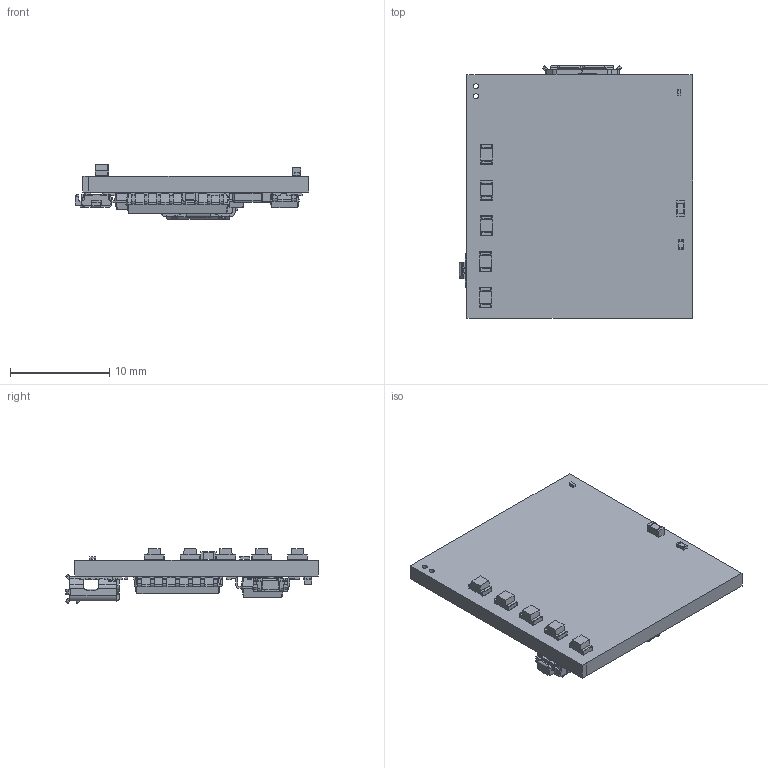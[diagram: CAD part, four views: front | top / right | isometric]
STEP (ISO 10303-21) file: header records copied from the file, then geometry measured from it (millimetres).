
FILE_DESCRIPTION(('KiCad electronic assembly'),'2;1');
FILE_NAME('Mark Small.step','2021-03-18T18:11:36',('An Author'),( 'A Company'),'Open CASCADE STEP processor 6.9', 'KiCad to STEP converter','Unknown');
FILE_SCHEMA(('AUTOMOTIVE_DESIGN { 1 0 10303 214 1 1 1 1 }'));
Length unit declared in the file: millimetre
Products named in the file (30): Open CASCADE STEP translator 6.9 1; R_0402_1005Metric; SOLID; C_0201_0603Metric; User_Library-EVQP7-LC-01P; USB_Micro-B_Molex_47346-0001; SOT-23-5; L_Wuerth_MAPI-3010; SOT-23-6; SOIC-14_3.9x8.7mm_P1.27mm; SOP-16_4.4x10.4mm_P1.27mm; LED_0805_2012Metric; D_1206_3216Metric; D_SOD-523; C_0603_1608Metric; C_1206_3216Metric; COMPOUND
Assembly tree (64 placements, depth 3):
  Open CASCADE STEP translator 6.9 1
    R_0402_1005Metric  x17
      SOLID
    C_0201_0603Metric  x12
      SOLID
    User_Library-EVQP7-LC-01P
      SOLID
    USB_Micro-B_Molex_47346-0001
      SOLID
    SOT-23-5
      SOLID
    L_Wuerth_MAPI-3010
      SOLID
    SOT-23-6
      SOLID
    SOIC-14_3.9x8.7mm_P1.27mm
      SOLID
    SOP-16_4.4x10.4mm_P1.27mm
      SOLID
    LED_0805_2012Metric  x5
      SOLID
    D_1206_3216Metric
      SOLID
    D_SOD-523
      SOLID
    C_0603_1608Metric  x5
      SOLID
    C_1206_3216Metric
      SOLID
    COMPOUND
Bounding box: 23.43 x 25.42 x 5.5 mm (x, y, z)
Volume: 1141.6 mm3; surface area: 2153.9 mm2
Topology: 50 solids, 50 shells, 2855 faces, 7696 edges, 4969 vertices
Faces by surface type: plane 1936, cylinder 760, bspline 151, sphere 8
Full cylindrical faces by diameter (mm): 0.5 x3, 0.6 x1
Entity records: 136095 total; most frequent: CARTESIAN_POINT 26298, DIRECTION 18170, LINE 12482, VECTOR 12482, ORIENTED_EDGE 9976, PCURVE 9976, DEFINITIONAL_REPRESENTATION 9976, EDGE_CURVE 4988
